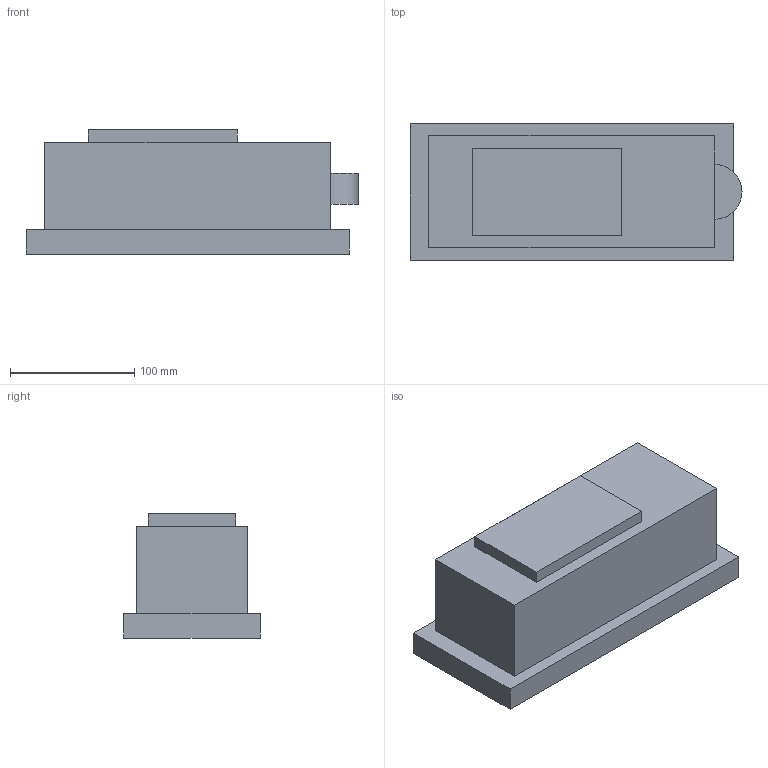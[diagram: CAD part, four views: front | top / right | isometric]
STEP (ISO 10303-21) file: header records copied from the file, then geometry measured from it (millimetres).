
FILE_DESCRIPTION(/* description */ (''),/* implementation_level */ '2;1');
FILE_NAME(/* name */ 'spectrometer.step',/* time_stamp */ '2026-11-14T21:13:08+01:00',/* author */ ('malgo'),/* organization */ (''),/* preprocessor_version */ 'ST-DEVELOPER v20.1',/* originating_system */ 'Autodesk Inventor 2026',/* authorisation */ '');
FILE_SCHEMA (('AUTOMOTIVE_DESIGN { 1 0 10303 214 3 1 1 }'));
Length unit declared in the file: metre
Products named in the file (1): spectrometer
Bounding box: 267 x 110 x 100 mm (x, y, z)
Volume: 2124006.6 mm3; surface area: 122748.4 mm2
Topology: 1 solids, 1 shells, 19 faces, 42 edges, 28 vertices
Faces by surface type: plane 18, cylinder 1
Entity records: 555 total; most frequent: CARTESIAN_POINT 90, ORIENTED_EDGE 84, DIRECTION 84, EDGE_CURVE 42, LINE 40, VECTOR 40, VERTEX_POINT 28, EDGE_LOOP 22
